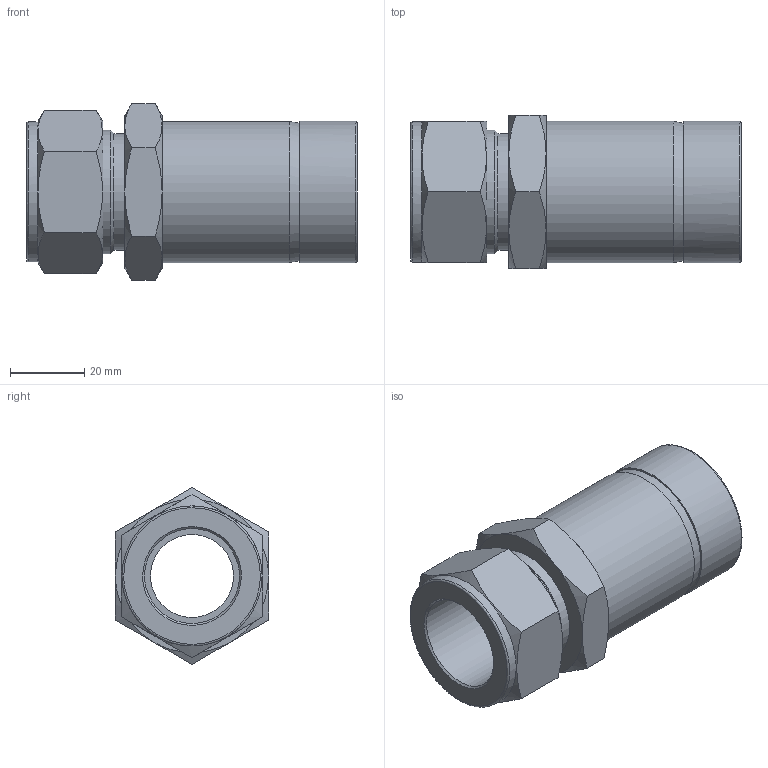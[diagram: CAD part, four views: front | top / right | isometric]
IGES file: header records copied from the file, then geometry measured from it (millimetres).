
Global section: file name: SR-16-24; native system: Autodesk Inventor 2016; preprocessor: unknown; author: DESIGNPC2; date: 20151113.090502; units: millimetre
Bounding box: 89.26 x 41.27 x 47.65 mm (x, y, z)
Volume: 45956.3 mm3; surface area: 21702.8 mm2
Topology: 1 solids, 1 shells, 47 faces, 122 edges, 82 vertices
Faces by surface type: bspline 47
